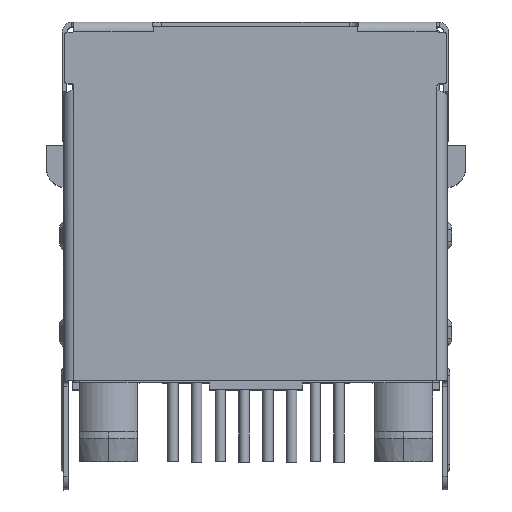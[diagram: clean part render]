
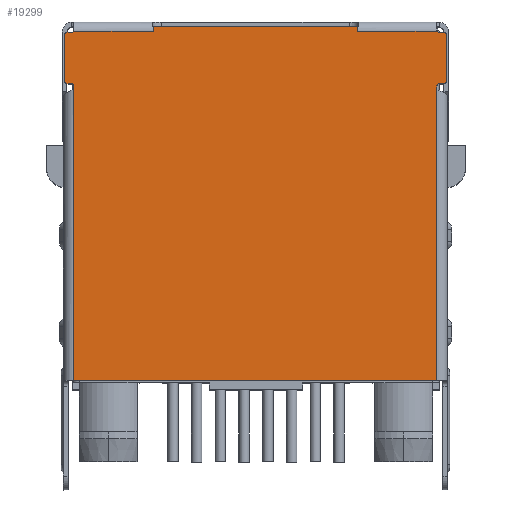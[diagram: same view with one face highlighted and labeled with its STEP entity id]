
A CAD part, top view. The second image highlights one B-rep face of the part: STEP entity #19299.
In plain terms, the highlighted planar face has unit normal (0, 0, 1).
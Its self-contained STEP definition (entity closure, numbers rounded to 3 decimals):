
#13804=CARTESIAN_POINT('',(7.788,15.4,6.675));
#13806=DIRECTION('',(-1.,0.,0.));
#13807=VECTOR('',#13806,3.432);
#13808=CARTESIAN_POINT('',(7.788,15.4,6.675));
#13809=LINE('',#13808,#13807);
#14004=DIRECTION('',(-1.,0.,0.));
#14005=VECTOR('',#14004,3.432);
#14006=CARTESIAN_POINT('',(-4.407,15.4,6.675));
#14007=LINE('',#14006,#14005);
#14034=CARTESIAN_POINT('',(7.875,15.45,6.675));
#14035=DIRECTION('',(0.,0.,-1.));
#14036=DIRECTION('',(0.,-1.,0.));
#14037=AXIS2_PLACEMENT_3D('',#14034,#14035,#14036);
#14039=CARTESIAN_POINT('',(8.075,15.25,6.675));
#14040=DIRECTION('',(0.,0.,1.));
#14041=DIRECTION('',(1.,0.,0.));
#14042=AXIS2_PLACEMENT_3D('',#14039,#14040,#14041);
#14044=CARTESIAN_POINT('',(8.075,13.25,6.675));
#14045=DIRECTION('',(0.,0.,1.));
#14046=DIRECTION('',(0.,-1.,0.));
#14047=AXIS2_PLACEMENT_3D('',#14044,#14045,#14046);
#14049=CARTESIAN_POINT('',(7.875,13.05,6.675));
#14050=DIRECTION('',(0.,0.,-1.));
#14051=DIRECTION('',(-1.,0.,0.));
#14052=AXIS2_PLACEMENT_3D('',#14049,#14050,#14051);
#14054=CARTESIAN_POINT('',(-7.883,12.882,
6.675));
#14055=CARTESIAN_POINT('',(-7.877,12.885,
6.675));
#14056=CARTESIAN_POINT('',(-7.863,12.891,
6.675));
#14057=CARTESIAN_POINT('',(-7.844,12.9,
6.675));
#14058=CARTESIAN_POINT('',(-7.831,12.906,
6.675));
#14059=CARTESIAN_POINT('',(-7.825,12.909,
6.675));
#14061=CARTESIAN_POINT('',(-7.825,12.976,6.675));
#14062=CARTESIAN_POINT('',(-7.825,12.962,6.675));
#14063=CARTESIAN_POINT('',(-7.829,12.938,
6.675));
#14064=CARTESIAN_POINT('',(-7.851,12.902,
6.675));
#14065=CARTESIAN_POINT('',(-7.871,12.888,
6.675));
#14066=CARTESIAN_POINT('',(-7.883,12.882,
6.675));
#14068=CARTESIAN_POINT('',(-7.925,13.05,6.675));
#14069=DIRECTION('',(0.,0.,-1.));
#14070=DIRECTION('',(0.,1.,0.));
#14071=AXIS2_PLACEMENT_3D('',#14068,#14069,#14070);
#14073=CARTESIAN_POINT('',(-8.125,13.25,6.675));
#14074=DIRECTION('',(0.,0.,1.));
#14075=DIRECTION('',(-1.,0.,0.));
#14076=AXIS2_PLACEMENT_3D('',#14073,#14074,#14075);
#14078=CARTESIAN_POINT('',(-8.125,15.25,6.675));
#14079=DIRECTION('',(0.,0.,1.));
#14080=DIRECTION('',(0.,1.,0.));
#14081=AXIS2_PLACEMENT_3D('',#14078,#14079,#14080);
#14083=CARTESIAN_POINT('',(-7.925,15.45,6.675));
#14084=DIRECTION('',(0.,0.,-1.));
#14085=DIRECTION('',(0.866,-0.5,0.));
#14086=AXIS2_PLACEMENT_3D('',#14083,#14084,#14085);
#14182=CARTESIAN_POINT('',(-7.883,12.882,
6.675));
#14220=DIRECTION('',(0.,-1.,0.));
#14221=VECTOR('',#14220,12.509);
#14222=CARTESIAN_POINT('',(-7.825,12.909,
6.675));
#14223=LINE('',#14222,#14221);
#14268=DIRECTION('',(1.,0.,0.));
#14269=VECTOR('',#14268,15.6);
#14270=CARTESIAN_POINT('',(-7.825,0.4,6.675));
#14271=LINE('',#14270,#14269);
#14272=DIRECTION('',(0.,1.,0.));
#14273=VECTOR('',#14272,12.509);
#14274=CARTESIAN_POINT('',(7.775,0.4,6.675));
#14275=LINE('',#14274,#14273);
#14309=DIRECTION('',(0.,-1.,0.));
#14310=VECTOR('',#14309,0.141);
#14311=CARTESIAN_POINT('',(7.775,13.05,6.675));
#14312=LINE('',#14311,#14310);
#14329=DIRECTION('',(1.,0.,0.));
#14330=VECTOR('',#14329,0.2);
#14331=CARTESIAN_POINT('',(7.875,13.15,6.675));
#14332=LINE('',#14331,#14330);
#14345=DIRECTION('',(0.,-1.,0.));
#14346=VECTOR('',#14345,2.);
#14347=CARTESIAN_POINT('',(8.175,15.25,6.675));
#14348=LINE('',#14347,#14346);
#14361=DIRECTION('',(1.,0.,0.));
#14362=VECTOR('',#14361,0.2);
#14363=CARTESIAN_POINT('',(7.875,15.35,6.675));
#14364=LINE('',#14363,#14362);
#14680=DIRECTION('',(0.,-1.,0.));
#14681=VECTOR('',#14680,0.074);
#14682=CARTESIAN_POINT('',(-7.825,13.05,6.675));
#14683=LINE('',#14682,#14681);
#14700=DIRECTION('',(1.,0.,0.));
#14701=VECTOR('',#14700,0.2);
#14702=CARTESIAN_POINT('',(-8.125,13.15,6.675));
#14703=LINE('',#14702,#14701);
#14716=DIRECTION('',(0.,-1.,0.));
#14717=VECTOR('',#14716,2.);
#14718=CARTESIAN_POINT('',(-8.225,15.25,6.675));
#14719=LINE('',#14718,#14717);
#14732=DIRECTION('',(1.,0.,0.));
#14733=VECTOR('',#14732,0.2);
#14734=CARTESIAN_POINT('',(-8.125,15.35,6.675));
#14735=LINE('',#14734,#14733);
#14762=DIRECTION('',(1.,0.,0.));
#14763=VECTOR('',#14762,8.764);
#14764=CARTESIAN_POINT('',(-4.407,15.6,6.675));
#14765=LINE('',#14764,#14763);
#14785=DIRECTION('',(0.,1.,0.));
#14786=VECTOR('',#14785,0.2);
#14787=CARTESIAN_POINT('',(4.357,15.4,6.675));
#14788=LINE('',#14787,#14786);
#14789=DIRECTION('',(0.,-1.,0.));
#14790=VECTOR('',#14789,0.2);
#14791=CARTESIAN_POINT('',(-4.407,15.6,6.675));
#14792=LINE('',#14791,#14790);
#17543=VERTEX_POINT('',#14182);
#17686=VERTEX_POINT('',#13804);
#17687=CARTESIAN_POINT('',(4.357,15.4,6.675));
#17688=VERTEX_POINT('',#17687);
#17804=CARTESIAN_POINT('',(-4.407,15.4,6.675));
#17805=CARTESIAN_POINT('',(-7.838,15.4,6.675));
#17806=VERTEX_POINT('',#17804);
#17807=VERTEX_POINT('',#17805);
#17810=CARTESIAN_POINT('',(7.875,15.35,6.675));
#17811=VERTEX_POINT('',#17810);
#17812=CARTESIAN_POINT('',(8.075,15.35,6.675));
#17813=VERTEX_POINT('',#17812);
#17814=CARTESIAN_POINT('',(8.175,15.25,6.675));
#17815=VERTEX_POINT('',#17814);
#17816=CARTESIAN_POINT('',(8.175,13.25,6.675));
#17817=VERTEX_POINT('',#17816);
#17818=CARTESIAN_POINT('',(8.075,13.15,6.675));
#17819=VERTEX_POINT('',#17818);
#17820=CARTESIAN_POINT('',(7.875,13.15,6.675));
#17821=VERTEX_POINT('',#17820);
#17822=CARTESIAN_POINT('',(7.775,13.05,6.675));
#17823=VERTEX_POINT('',#17822);
#17824=CARTESIAN_POINT('',(7.775,12.909,6.675));
#17825=VERTEX_POINT('',#17824);
#17826=CARTESIAN_POINT('',(7.775,0.4,6.675));
#17827=VERTEX_POINT('',#17826);
#17828=CARTESIAN_POINT('',(-7.825,0.4,6.675));
#17829=VERTEX_POINT('',#17828);
#17830=CARTESIAN_POINT('',(-7.825,12.909,
6.675));
#17831=VERTEX_POINT('',#17830);
#17832=VERTEX_POINT('',#14061);
#17833=CARTESIAN_POINT('',(-7.825,13.05,6.675));
#17834=VERTEX_POINT('',#17833);
#17835=CARTESIAN_POINT('',(-7.925,13.15,6.675));
#17836=VERTEX_POINT('',#17835);
#17837=CARTESIAN_POINT('',(-8.125,13.15,6.675));
#17838=VERTEX_POINT('',#17837);
#17839=CARTESIAN_POINT('',(-8.225,13.25,6.675));
#17840=VERTEX_POINT('',#17839);
#17841=CARTESIAN_POINT('',(-8.225,15.25,6.675));
#17842=VERTEX_POINT('',#17841);
#17843=CARTESIAN_POINT('',(-8.125,15.35,6.675));
#17844=VERTEX_POINT('',#17843);
#17845=CARTESIAN_POINT('',(-7.925,15.35,6.675));
#17846=VERTEX_POINT('',#17845);
#17847=CARTESIAN_POINT('',(-4.407,15.6,6.675));
#17848=VERTEX_POINT('',#17847);
#17849=CARTESIAN_POINT('',(4.357,15.6,6.675));
#17850=VERTEX_POINT('',#17849);
#19242=CARTESIAN_POINT('',(-0.025,8.,6.675));
#19243=DIRECTION('',(0.,0.,1.));
#19244=DIRECTION('',(0.,1.,0.));
#19245=AXIS2_PLACEMENT_3D('',#19242,#19243,#19244);
#19246=PLANE('',#19245);
#19247=ORIENTED_EDGE('',*,*,#18941,.F.);
#19249=ORIENTED_EDGE('',*,*,#19248,.F.);
#19251=ORIENTED_EDGE('',*,*,#19250,.T.);
#19253=ORIENTED_EDGE('',*,*,#19252,.F.);
#19255=ORIENTED_EDGE('',*,*,#19254,.T.);
#19257=ORIENTED_EDGE('',*,*,#19256,.F.);
#19259=ORIENTED_EDGE('',*,*,#19258,.F.);
#19261=ORIENTED_EDGE('',*,*,#19260,.F.);
#19263=ORIENTED_EDGE('',*,*,#19262,.T.);
#19265=ORIENTED_EDGE('',*,*,#19264,.F.);
#19267=ORIENTED_EDGE('',*,*,#19266,.F.);
#19269=ORIENTED_EDGE('',*,*,#19268,.F.);
#19271=ORIENTED_EDGE('',*,*,#19270,.F.);
#19273=ORIENTED_EDGE('',*,*,#19272,.F.);
#19275=ORIENTED_EDGE('',*,*,#19274,.F.);
#19277=ORIENTED_EDGE('',*,*,#19276,.F.);
#19279=ORIENTED_EDGE('',*,*,#19278,.F.);
#19281=ORIENTED_EDGE('',*,*,#19280,.F.);
#19283=ORIENTED_EDGE('',*,*,#19282,.F.);
#19285=ORIENTED_EDGE('',*,*,#19284,.F.);
#19287=ORIENTED_EDGE('',*,*,#19286,.T.);
#19289=ORIENTED_EDGE('',*,*,#19288,.F.);
#19290=ORIENTED_EDGE('',*,*,#19227,.F.);
#19292=ORIENTED_EDGE('',*,*,#19291,.F.);
#19294=ORIENTED_EDGE('',*,*,#19293,.T.);
#19296=ORIENTED_EDGE('',*,*,#19295,.F.);
#19297=EDGE_LOOP('',(#19247,#19249,#19251,#19253,#19255,#19257,#19259,#19261,
#19263,#19265,#19267,#19269,#19271,#19273,#19275,#19277,#19279,#19281,#19283,
#19285,#19287,#19289,#19290,#19292,#19294,#19296));
#19298=FACE_OUTER_BOUND('',#19297,.F.);
#19299=ADVANCED_FACE('',(#19298),#19246,.T.);
#14038=CIRCLE('',#14037,0.1);
#14043=CIRCLE('',#14042,0.1);
#14048=CIRCLE('',#14047,0.1);
#14053=CIRCLE('',#14052,0.1);
#14060=B_SPLINE_CURVE_WITH_KNOTS('',3,(#14054,#14055,#14056,#14057,#14058,
#14059),.UNSPECIFIED.,.F.,.F.,(4,1,1,4),(0.,0.333,
0.667,1.),.UNSPECIFIED.);
#14067=B_SPLINE_CURVE_WITH_KNOTS('',3,(#14061,#14062,#14063,#14064,#14065,
#14066),.UNSPECIFIED.,.F.,.F.,(4,1,1,4),(0.,0.333,
0.667,1.),.UNSPECIFIED.);
#14072=CIRCLE('',#14071,0.1);
#14077=CIRCLE('',#14076,0.1);
#14082=CIRCLE('',#14081,0.1);
#14087=CIRCLE('',#14086,0.1);
#18941=EDGE_CURVE('',#17686,#17688,#13809,.T.);
#19227=EDGE_CURVE('',#17806,#17807,#14007,.T.);
#19248=EDGE_CURVE('',#17811,#17686,#14038,.T.);
#19250=EDGE_CURVE('',#17811,#17813,#14364,.T.);
#19252=EDGE_CURVE('',#17815,#17813,#14043,.T.);
#19254=EDGE_CURVE('',#17815,#17817,#14348,.T.);
#19256=EDGE_CURVE('',#17819,#17817,#14048,.T.);
#19258=EDGE_CURVE('',#17821,#17819,#14332,.T.);
#19260=EDGE_CURVE('',#17823,#17821,#14053,.T.);
#19262=EDGE_CURVE('',#17823,#17825,#14312,.T.);
#19264=EDGE_CURVE('',#17827,#17825,#14275,.T.);
#19266=EDGE_CURVE('',#17829,#17827,#14271,.T.);
#19268=EDGE_CURVE('',#17831,#17829,#14223,.T.);
#19270=EDGE_CURVE('',#17543,#17831,#14060,.T.);
#19272=EDGE_CURVE('',#17832,#17543,#14067,.T.);
#19274=EDGE_CURVE('',#17834,#17832,#14683,.T.);
#19276=EDGE_CURVE('',#17836,#17834,#14072,.T.);
#19278=EDGE_CURVE('',#17838,#17836,#14703,.T.);
#19280=EDGE_CURVE('',#17840,#17838,#14077,.T.);
#19282=EDGE_CURVE('',#17842,#17840,#14719,.T.);
#19284=EDGE_CURVE('',#17844,#17842,#14082,.T.);
#19286=EDGE_CURVE('',#17844,#17846,#14735,.T.);
#19288=EDGE_CURVE('',#17807,#17846,#14087,.T.);
#19291=EDGE_CURVE('',#17848,#17806,#14792,.T.);
#19293=EDGE_CURVE('',#17848,#17850,#14765,.T.);
#19295=EDGE_CURVE('',#17688,#17850,#14788,.T.);
